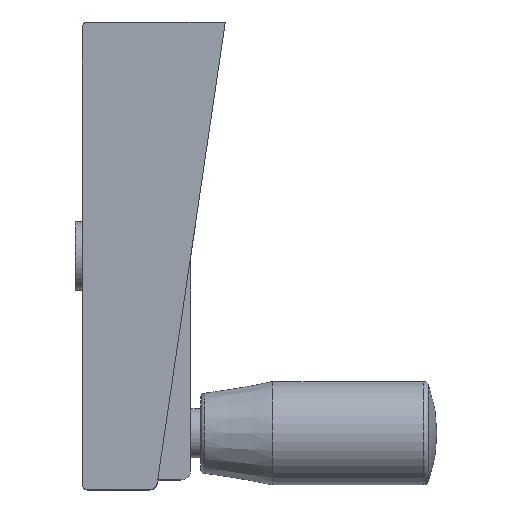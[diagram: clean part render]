
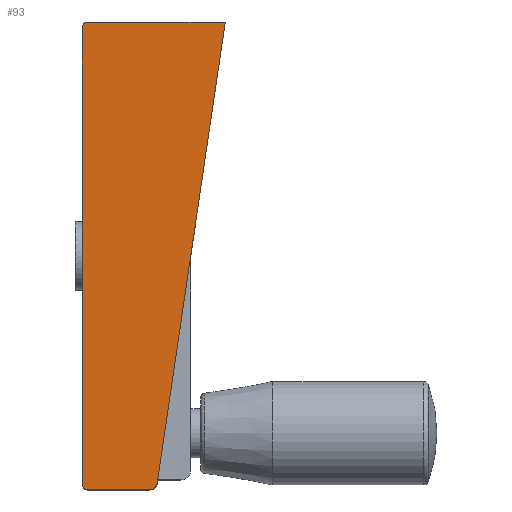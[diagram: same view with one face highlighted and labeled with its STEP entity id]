
A CAD part, top view. The second image highlights one B-rep face of the part: STEP entity #93.
In plain terms, the highlighted planar face has unit normal (0, -0.021, 1).
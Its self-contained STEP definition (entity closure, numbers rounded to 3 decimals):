
#93 = ADVANCED_FACE( '', ( #150 ), #151, .F. );
#150 = FACE_OUTER_BOUND( '', #218, .T. );
#151 = PLANE( '', #219 );
#218 = EDGE_LOOP( '', ( #357, #358, #359, #360, #361, #362, #363, #364, #365, #366, #367 ) );
#219 = AXIS2_PLACEMENT_3D( '', #368, #369, #370 );
#357 = ORIENTED_EDGE( '', *, *, #484, .F. );
#358 = ORIENTED_EDGE( '', *, *, #481, .F. );
#359 = ORIENTED_EDGE( '', *, *, #485, .F. );
#360 = ORIENTED_EDGE( '', *, *, #486, .F. );
#361 = ORIENTED_EDGE( '', *, *, #468, .F. );
#362 = ORIENTED_EDGE( '', *, *, #465, .F. );
#363 = ORIENTED_EDGE( '', *, *, #461, .F. );
#364 = ORIENTED_EDGE( '', *, *, #458, .F. );
#365 = ORIENTED_EDGE( '', *, *, #455, .F. );
#366 = ORIENTED_EDGE( '', *, *, #452, .F. );
#367 = ORIENTED_EDGE( '', *, *, #445, .F. );
#368 = CARTESIAN_POINT( '', ( 30., 0., 13. ) );
#369 = DIRECTION( '', ( 0., 0.021, -1. ) );
#370 = DIRECTION( '', ( 0., 1., 0.021 ) );
#445 = EDGE_CURVE( '', #509, #511, #512, .T. );
#452 = EDGE_CURVE( '', #511, #519, #523, .T. );
#455 = EDGE_CURVE( '', #519, #524, #528, .T. );
#458 = EDGE_CURVE( '', #524, #529, #533, .T. );
#461 = EDGE_CURVE( '', #529, #534, #538, .T. );
#465 = EDGE_CURVE( '', #534, #541, #545, .T. );
#468 = EDGE_CURVE( '', #541, #546, #550, .T. );
#481 = EDGE_CURVE( '', #571, #573, #574, .T. );
#484 = EDGE_CURVE( '', #573, #509, #578, .T. );
#485 = EDGE_CURVE( '', #579, #571, #580, .T. );
#486 = EDGE_CURVE( '', #546, #579, #581, .T. );
#509 = VERTEX_POINT( '', #611 );
#511 = VERTEX_POINT( '', #614 );
#512 = LINE( '', #615, #616 );
#519 = VERTEX_POINT( '', #625 );
#523 = LINE( '', #631, #632 );
#524 = VERTEX_POINT( '', #633 );
#528 = ELLIPSE( '', #638, 1.5, 1.5 );
#529 = VERTEX_POINT( '', #639 );
#533 = LINE( '', #645, #646 );
#534 = VERTEX_POINT( '', #647 );
#538 = ELLIPSE( '', #652, 1., 1. );
#541 = VERTEX_POINT( '', #655 );
#545 = LINE( '', #661, #662 );
#546 = VERTEX_POINT( '', #663 );
#550 = ELLIPSE( '', #668, 1., 1. );
#571 = VERTEX_POINT( '', #692 );
#573 = VERTEX_POINT( '', #695 );
#574 = LINE( '', #696, #697 );
#578 = LINE( '', #703, #704 );
#579 = VERTEX_POINT( '', #705 );
#580 = LINE( '', #706, #707 );
#581 = LINE( '', #708, #709 );
#611 = CARTESIAN_POINT( '', ( 15.297, -93., 11.042 ) );
#614 = CARTESIAN_POINT( '', ( 15.295, -93., 11.042 ) );
#615 = CARTESIAN_POINT( '', ( 15.295, -93., 11.042 ) );
#616 = VECTOR( '', #737, 1000. );
#625 = CARTESIAN_POINT( '', ( 15.189, -93.719, 11.027 ) );
#631 = CARTESIAN_POINT( '', ( 15.234, -93.41, 11.033 ) );
#632 = VECTOR( '', #748, 1000. );
#633 = CARTESIAN_POINT( '', ( 13.705, -95., 11. ) );
#638 = AXIS2_PLACEMENT_3D( '', #753, #754, #755 );
#639 = CARTESIAN_POINT( '', ( 1., -95., 11. ) );
#645 = CARTESIAN_POINT( '', ( 30., -95., 11. ) );
#646 = VECTOR( '', #758, 1000. );
#647 = CARTESIAN_POINT( '', ( 0., -94., 11.021 ) );
#652 = AXIS2_PLACEMENT_3D( '', #763, #764, #765 );
#655 = CARTESIAN_POINT( '', ( 0., -1., 12.979 ) );
#661 = CARTESIAN_POINT( '', ( 0., -0.726, 12.985 ) );
#662 = VECTOR( '', #771, 1000. );
#663 = CARTESIAN_POINT( '', ( 1., 0., 13. ) );
#668 = AXIS2_PLACEMENT_3D( '', #776, #777, #778 );
#692 = CARTESIAN_POINT( '', ( 22., -47.5, 12. ) );
#695 = CARTESIAN_POINT( '', ( 22., -47.507, 12. ) );
#696 = CARTESIAN_POINT( '', ( 22., -90.686, 11.091 ) );
#697 = VECTOR( '', #804, 1000. );
#703 = CARTESIAN_POINT( '', ( 29.021, 0.144, 13.003 ) );
#704 = VECTOR( '', #807, 1000. );
#705 = CARTESIAN_POINT( '', ( 29., 0., 13. ) );
#706 = CARTESIAN_POINT( '', ( 22.042, -47.212, 12.006 ) );
#707 = VECTOR( '', #808, 1000. );
#708 = CARTESIAN_POINT( '', ( 29., 0., 13. ) );
#709 = VECTOR( '', #809, 1000. );
#737 = DIRECTION( '', ( -1., 0., 0. ) );
#748 = DIRECTION( '', ( -0.146, -0.989, -0.021 ) );
#753 = CARTESIAN_POINT( '', ( 13.705, -93.5, 11.032 ) );
#754 = DIRECTION( '', ( 0., 0.021, -1. ) );
#755 = DIRECTION( '', ( 0., -1., -0.021 ) );
#758 = DIRECTION( '', ( -1., 0., 0. ) );
#763 = CARTESIAN_POINT( '', ( 1., -94., 11.021 ) );
#764 = DIRECTION( '', ( 0., 0.021, -1. ) );
#765 = DIRECTION( '', ( 0., -1., -0.021 ) );
#771 = DIRECTION( '', ( 0., 1., 0.021 ) );
#776 = CARTESIAN_POINT( '', ( 1., -1., 12.979 ) );
#777 = DIRECTION( '', ( 0., 0.021, -1. ) );
#778 = DIRECTION( '', ( 0., -1., -0.021 ) );
#804 = DIRECTION( '', ( 0., -1., -0.021 ) );
#807 = DIRECTION( '', ( -0.146, -0.989, -0.021 ) );
#808 = DIRECTION( '', ( -0.146, -0.989, -0.021 ) );
#809 = DIRECTION( '', ( 1., 0., 0. ) );
